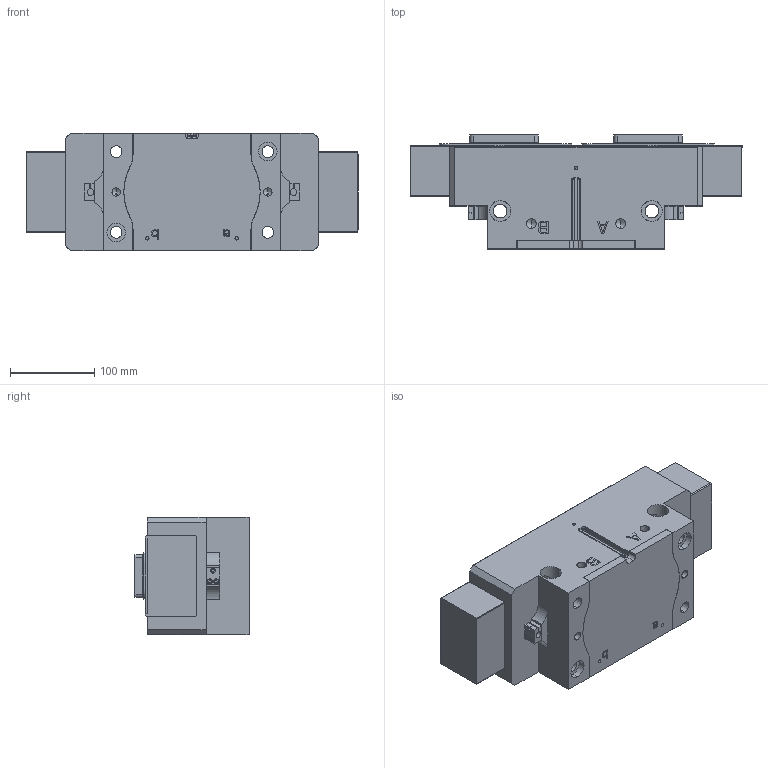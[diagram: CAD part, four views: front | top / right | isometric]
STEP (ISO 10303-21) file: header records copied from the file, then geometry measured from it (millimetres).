
FILE_DESCRIPTION (( 'STEP AP214' ), '1' );
FILE_NAME ('FPT 300A-1-SD.STEP', '2021-09-18T08:50:07', ( 'DEEP' ), ( 'Microsoft' ), 'SwSTEP 2.0', 'SolidWorks 2016', '' );
FILE_SCHEMA (( 'AUTOMOTIVE_DESIGN' ));
Length unit declared in the file: millimetre
Products named in the file (25): FPT 300A-1-SD-001; FPT 300A-1-003; FPT 300A-1-SD-003; FPT 300A-1-002; FPT 300A-1-SD-004; FPT 300A-1-001; FPT 300A-1-SD-002; FPT 300A-1-004; FPT 300A-1-005; FPT 300A-1-SD; FPT300A-11-sd
Assembly tree (15 placements, depth 3):
  FPT 300A-1-SD-001
  FPT 300A-1-SD-003
  FPT 300A-1-SD-004
  FPT 300A-1-SD-002
  FPT 300A-1-SD-004
Bounding box: 394 x 135.4 x 140 mm (x, y, z)
Volume: 4699013 mm3; surface area: 543116 mm2
Topology: 14 solids, 14 shells, 772 faces, 2034 edges, 1311 vertices
Faces by surface type: plane 455, cylinder 235, cone 76, bspline 6
Entity records: 22652 total; most frequent: CARTESIAN_POINT 4379, DIRECTION 3330, ORIENTED_EDGE 3296, EDGE_CURVE 1648, VECTOR 1182, LINE 1182, VERTEX_POINT 1085, AXIS2_PLACEMENT_3D 1074
